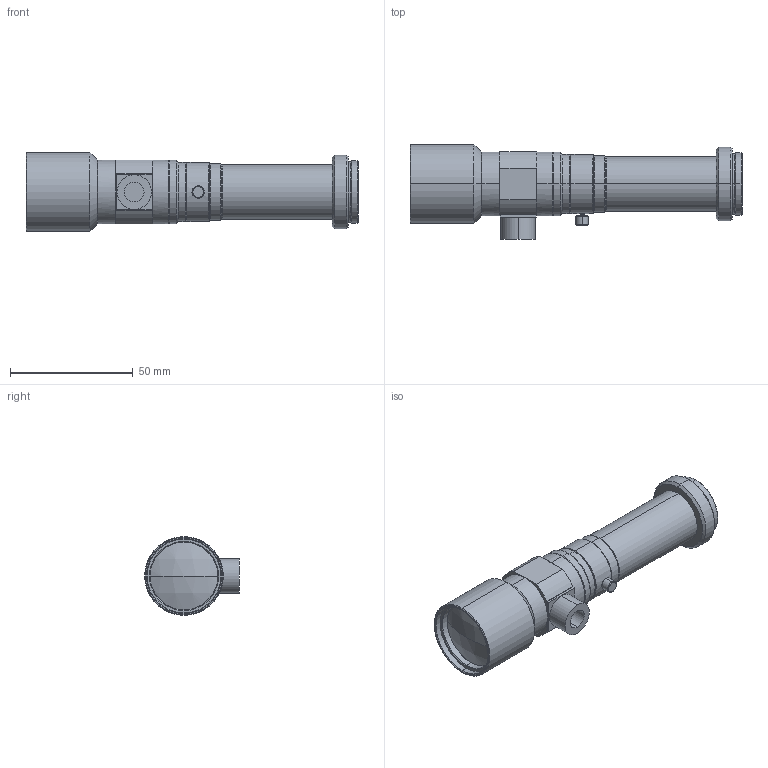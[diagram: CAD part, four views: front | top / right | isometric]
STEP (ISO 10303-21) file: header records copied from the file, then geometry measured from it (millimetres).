
FILE_DESCRIPTION (( 'STEP AP203' ), '1' );
FILE_NAME ('VS-THV1-110CO_S.STEP', '2015-12-22T01:33:29', ( 'miura_vst' ), ( '' ), 'SwSTEP 2.0', 'SolidWorks 2015', '' );
FILE_SCHEMA (( 'CONFIG_CONTROL_DESIGN' ));
Length unit declared in the file: millimetre
Products named in the file (1): VS-THV1-110CO_S
Bounding box: 135 x 38.5 x 32 mm (x, y, z)
Volume: 56160.8 mm3; surface area: 18181.5 mm2
Topology: 1 solids, 1 shells, 161 faces, 332 edges, 192 vertices
Faces by surface type: cone 64, cylinder 56, plane 37, sphere 4
Entity records: 4323 total; most frequent: DIRECTION 830, CARTESIAN_POINT 718, ORIENTED_EDGE 664, AXIS2_PLACEMENT_3D 338, EDGE_CURVE 332, VERTEX_POINT 192, EDGE_LOOP 180, CIRCLE 176
